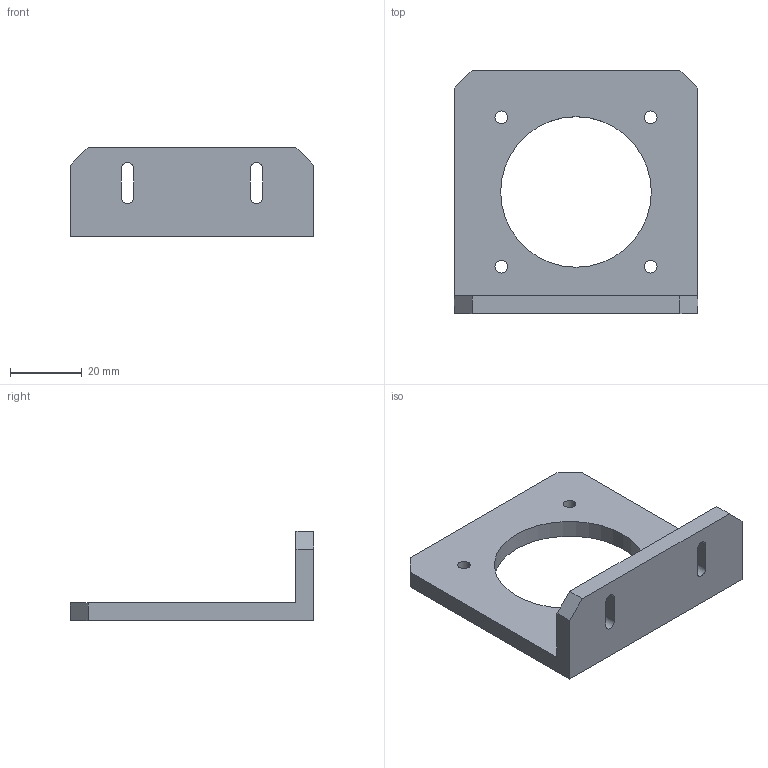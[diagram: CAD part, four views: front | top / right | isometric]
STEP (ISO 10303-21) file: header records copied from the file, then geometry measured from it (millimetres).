
FILE_DESCRIPTION (( 'STEP AP214' ), '1' );
FILE_NAME ('眈儂嘐隅啣.STEP', '2025-08-06T08:00:30', ( '' ), ( '' ), 'SwSTEP 2.0', 'SolidWorks 2024', '' );
FILE_SCHEMA (( 'AUTOMOTIVE_DESIGN' ));
Length unit declared in the file: millimetre
Products named in the file (1): 相机固定板
Bounding box: 68 x 68 x 25 mm (x, y, z)
Volume: 22187.6 mm3; surface area: 11522.9 mm2
Topology: 1 solids, 1 shells, 32 faces, 90 edges, 60 vertices
Faces by surface type: cylinder 16, plane 16
Entity records: 1097 total; most frequent: DIRECTION 188, CARTESIAN_POINT 183, ORIENTED_EDGE 180, EDGE_CURVE 90, AXIS2_PLACEMENT_3D 65, VERTEX_POINT 60, LINE 58, VECTOR 58
